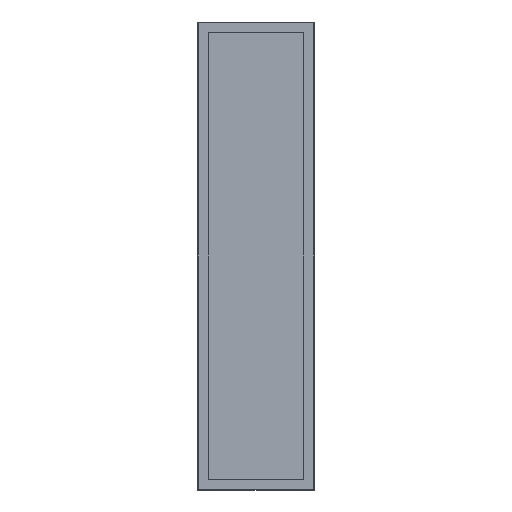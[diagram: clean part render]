
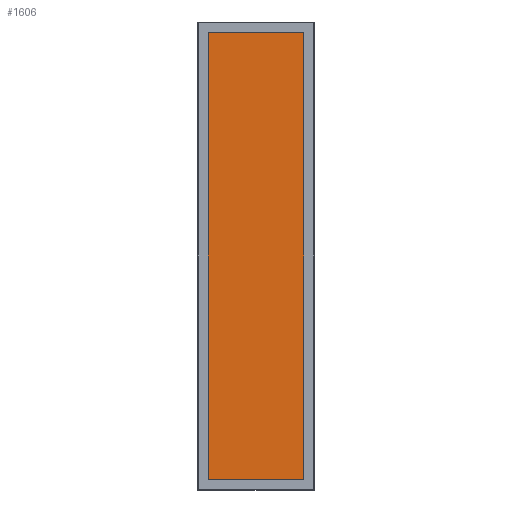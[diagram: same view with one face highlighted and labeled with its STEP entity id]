
A CAD part, front view. The second image highlights one B-rep face of the part: STEP entity #1606.
In plain terms, the highlighted planar face has unit normal (0, -1, 0).
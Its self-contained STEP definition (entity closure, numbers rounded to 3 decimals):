
#1606=ADVANCED_FACE('',(#6019),#6021,.F.);
#6019=FACE_BOUND('',#6020,.T.);
#6020=EDGE_LOOP('',(#8652,#8653,#8654,#8655));
#6021=PLANE('',#6022);
#6022=AXIS2_PLACEMENT_3D('',#6023,#6024,#6025);
#6023=CARTESIAN_POINT('',(0.,0.,0.));
#6024=DIRECTION('',(-0.,1.,0.));
#6025=DIRECTION('',(1.,0.,0.));
#8652=ORIENTED_EDGE('',*,*,#9864,.F.);
#8653=ORIENTED_EDGE('',*,*,#9861,.F.);
#8654=ORIENTED_EDGE('',*,*,#9858,.F.);
#8655=ORIENTED_EDGE('',*,*,#9854,.F.);
#9854=EDGE_CURVE('',#11536,#11537,#11538,.T.);
#9858=EDGE_CURVE('',#11537,#11544,#11545,.T.);
#9861=EDGE_CURVE('',#11544,#11549,#11550,.T.);
#9864=EDGE_CURVE('',#11549,#11536,#11554,.T.);
#11536=VERTEX_POINT('',#15734);
#11537=VERTEX_POINT('',#15735);
#11538=LINE('',#15736,#15737);
#11544=VERTEX_POINT('',#15750);
#11545=LINE('',#15751,#15752);
#11549=VERTEX_POINT('',#15761);
#11550=LINE('',#15762,#15763);
#11554=LINE('',#15772,#15773);
#15734=CARTESIAN_POINT('',(-133.,0.,584.));
#15735=CARTESIAN_POINT('',(133.,0.,584.));
#15736=CARTESIAN_POINT('',(-133.,0.,584.));
#15737=VECTOR('',#15738,1.);
#15738=DIRECTION('',(1.,0.,0.));
#15750=CARTESIAN_POINT('',(133.,0.,-584.));
#15751=CARTESIAN_POINT('',(133.,0.,584.));
#15752=VECTOR('',#15753,1.);
#15753=DIRECTION('',(0.,0.,-1.));
#15761=CARTESIAN_POINT('',(-133.,0.,-584.));
#15762=CARTESIAN_POINT('',(133.,0.,-584.));
#15763=VECTOR('',#15764,1.);
#15764=DIRECTION('',(-1.,0.,0.));
#15772=CARTESIAN_POINT('',(-133.,0.,-584.));
#15773=VECTOR('',#15774,1.);
#15774=DIRECTION('',(0.,0.,1.));
